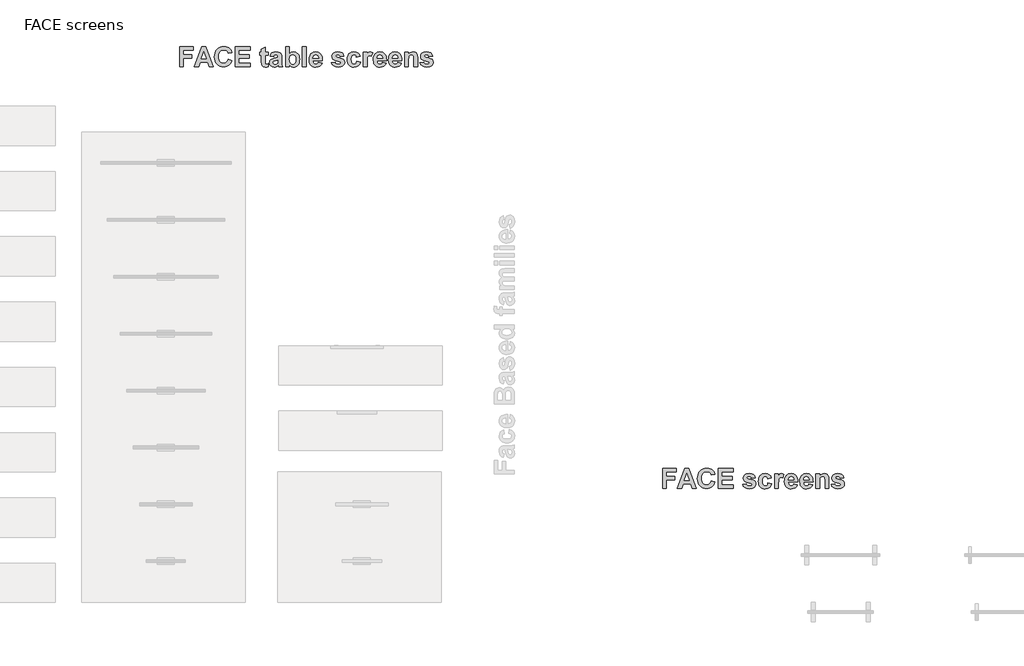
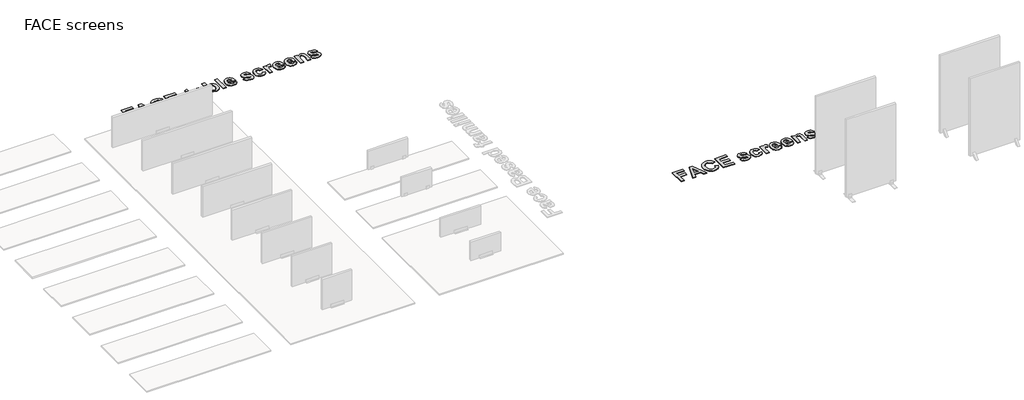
# One storey, part 5 of 5: 2 proxies.
"""IFC4 building model written with IfcOpenShell, lengths in millimetres."""

import ifcopenshell
import ifcopenshell.guid

model = None  # the IFC model being written
_history = None  # IfcOwnerHistory: only IFC2X3 demands one
_inside = {}  # id of a spatial element -> (the spatial element, [elements in it])
_under = {}  # id of a project, library or spatial element -> (it, [spatial elements below it])
_declared = {}  # id of a project -> (the project, [libraries it declares])
_typed = {}  # id of a type object -> (the type object, [elements of that type])
_made_of = {}  # id of a material, layer set ... -> (it, [elements and type objects made of it])


def new_model(schema):
    """Start an empty IFC model of exactly this schema.

    Asked for "IFC4X3", IfcOpenShell would pick the latest addendum, in which some entities
    have other attributes; the version numbers below select the first issue.
    IFC2X3 requires an IfcOwnerHistory on every rooted entity: one is made here for all.
    """
    global model, _history
    if schema == "IFC4X3":
        model = ifcopenshell.file(schema_version=(4, 3, 0, 0))
    else:
        model = ifcopenshell.file(schema=schema)
    _inside.clear()
    _under.clear()
    _declared.clear()
    _typed.clear()
    _made_of.clear()
    _history = None
    if model.schema == "IFC2X3":
        org = make("IfcOrganization", Name="unknown")
        user = make(
            "IfcPersonAndOrganization",
            ThePerson=make("IfcPerson", FamilyName="unknown"),
            TheOrganization=org,
        )
        app = make(
            "IfcApplication",
            ApplicationDeveloper=org,
            Version="unknown",
            ApplicationFullName="unknown",
            ApplicationIdentifier="unknown",
        )
        _history = make(
            "IfcOwnerHistory",
            OwningUser=user,
            OwningApplication=app,
            ChangeAction="ADDED",
            CreationDate=0,
        )
    return model


def make(cls, **values):
    """One entity of the class cls with the attributes given. An attribute that is None is left unset."""
    return model.create_entity(
        cls, **{name: value for name, value in values.items() if value is not None}
    )


def rooted(cls, **values):
    """An entity with a GlobalId (a new one), such as an element, a storey or a relation."""
    return make(cls, GlobalId=ifcopenshell.guid.new(), OwnerHistory=_history, **values)


def si_unit(unit_type, name, prefix=None):
    """IfcSIUnit, for example si_unit("LENGTHUNIT", "METRE", prefix="MILLI")."""
    return make("IfcSIUnit", UnitType=unit_type, Prefix=prefix, Name=name)


def assignment(units):
    """IfcUnitAssignment: the units of a project."""
    return None if units is None else make("IfcUnitAssignment", Units=units)


def point(xyz):
    """IfcCartesianPoint."""
    return None if xyz is None else make("IfcCartesianPoint", Coordinates=xyz)


def direction(xyz):
    """IfcDirection."""
    return None if xyz is None else make("IfcDirection", DirectionRatios=xyz)


def frame(location, z_axis=None, x_axis=None):
    """IfcAxis2Placement3D, a coordinate frame: its origin and axes. An axis left out is left unset."""
    return make(
        "IfcAxis2Placement3D",
        Location=point(location),
        Axis=direction(z_axis),
        RefDirection=direction(x_axis),
    )


def origin():
    """The frame at (0, 0, 0) with its axes left unset."""
    return frame((0.0, 0.0, 0.0))


def origin_with_axes():
    """The frame at (0, 0, 0) with the z axis (0, 0, 1) and the x axis (1, 0, 0) written out."""
    return frame((0.0, 0.0, 0.0), z_axis=(0.0, 0.0, 1.0), x_axis=(1.0, 0.0, 0.0))


def place(relative_to, where):
    """IfcLocalPlacement: puts the frame where relative to a parent placement (None: the world)."""
    return make(
        "IfcLocalPlacement", PlacementRelTo=relative_to, RelativePlacement=where
    )


def context(
    kind, dimensions, precision=None, world=None, true_north=None, identifier=None
):
    """IfcGeometricRepresentationContext, for example the 3D "Model" context."""
    return make(
        "IfcGeometricRepresentationContext",
        ContextIdentifier=identifier,
        ContextType=kind,
        CoordinateSpaceDimension=dimensions,
        Precision=precision,
        WorldCoordinateSystem=world,
        TrueNorth=true_north,
    )


def project(units=None, contexts=None):
    """IfcProject with its units and contexts."""
    return rooted(
        "IfcProject",
        Name="project",
        RepresentationContexts=contexts,
        UnitsInContext=assignment(units),
    )


def spatial(cls, under=None, at=None, **own):
    """A site, building, storey or space (cls), placed at a placement, below another one or the project."""
    s = rooted(cls, ObjectPlacement=at, **own)
    if under is not None:
        _under.setdefault(under.id(), (under, []))[1].append(s)
    return s


def polyline(points):
    """IfcPolyline through the points."""
    return make("IfcPolyline", Points=[point(p) for p in points])


def outline(outer, holes=None, kind="AREA"):
    """IfcArbitraryClosedProfileDef: a profile drawn as a closed curve; with holes, ...WithVoids."""
    if holes is None:
        return make("IfcArbitraryClosedProfileDef", ProfileType=kind, OuterCurve=outer)
    return make(
        "IfcArbitraryProfileDefWithVoids",
        ProfileType=kind,
        OuterCurve=outer,
        InnerCurves=holes,
    )


def extrude(swept, where, along, depth):
    """IfcExtrudedAreaSolid: the profile swept, set in the frame where, extruded along a direction by depth."""
    return make(
        "IfcExtrudedAreaSolid",
        SweptArea=swept,
        Position=where,
        ExtrudedDirection=direction(along),
        Depth=depth,
    )


def shape(context_of_items, identifier, shape_type, items):
    """IfcShapeRepresentation: the items that make up one representation, for example the "Body"."""
    return make(
        "IfcShapeRepresentation",
        ContextOfItems=context_of_items,
        RepresentationIdentifier=identifier,
        RepresentationType=shape_type,
        Items=items,
    )


def made_of(thing, what):
    """Note that an element or type object is made of a material, layer set ...; save() writes the relation."""
    if what is not None:
        _made_of.setdefault(what.id(), (what, []))[1].append(thing)
    return thing


def element(
    cls,
    number,
    at=None,
    inside=None,
    cuts=None,
    type_object=None,
    material=None,
    context=None,
    identifier="Body",
    shape_type=None,
    held_by="IfcProductDefinitionShape",
    body=None,
    shapes=None,
    **own,
):
    """One element of the class cls, such as IfcWall. Its Tag is "e" and its number.

    at: its placement. inside: the storey or other place that contains it. cuts: it is an
    opening in that element (IfcRelVoidsElement). A single representation is given by context,
    identifier, shape_type and body (its items); several are given by shapes. held_by: the class
    of the entity that holds the representations. save() writes the other relations.
    """
    e = rooted(cls, Tag="e%d" % number, ObjectPlacement=at, **own)
    if body is not None:
        shapes = [shape(context, identifier, shape_type, body)]
    if shapes is not None:
        e.Representation = make(held_by, Representations=shapes)
    if inside is not None:
        _inside.setdefault(inside.id(), (inside, []))[1].append(e)
    if cuts is not None:
        rooted(
            "IfcRelVoidsElement", RelatingBuildingElement=cuts, RelatedOpeningElement=e
        )
    if type_object is not None:
        _typed.setdefault(type_object.id(), (type_object, []))[1].append(e)
    return made_of(e, material)


def aggregate(whole, parts):
    """IfcRelAggregates: a whole, such as a stair, and the parts it consists of."""
    return rooted("IfcRelAggregates", RelatingObject=whole, RelatedObjects=parts)


def save(model, path):
    """Write the relations noted so far, then the file.

    IfcRelAggregates (storeys below a building ...), IfcRelContainedInSpatialStructure (elements
    in a storey), IfcRelDefinesByType, IfcRelAssociatesMaterial and IfcRelDeclares: one each for
    every whole, place, type object, material and project.
    """
    for whole, parts in _under.values():
        aggregate(whole, parts)
    for where, things in _inside.values():
        rooted(
            "IfcRelContainedInSpatialStructure",
            RelatedElements=things,
            RelatingStructure=where,
        )
    for kind, things in _typed.values():
        rooted("IfcRelDefinesByType", RelatedObjects=things, RelatingType=kind)
    for what, things in _made_of.values():
        rooted("IfcRelAssociatesMaterial", RelatedObjects=things, RelatingMaterial=what)
    for by, libraries in _declared.values():
        rooted("IfcRelDeclares", RelatingContext=by, RelatedDefinitions=libraries)
    model.write(path)


model = new_model("IFC4")

# Units and contexts
model_context = context("Model", 3, world=origin())
ifc_project = project(units=[si_unit("LENGTHUNIT", "METRE", prefix="MILLI")], contexts=[model_context])

# Site, building, storey
site = spatial("IfcSite", under=ifc_project)
building = spatial("IfcBuilding", under=site)
storey = spatial("IfcBuildingStorey", under=building, Name="FACE screens", Elevation=0.0)

# Proxies
placement = place(None, origin())
element("IfcBuildingElementProxy", 1, Name="300mm Arial", ObjectType="300mm Arial", at=placement, inside=storey, context=model_context, shape_type="SweptSolid", body=[
    extrude(outline(polyline([(15727.0666035, 22438.9044223), (15727.0666035, 22744.9822423), (15935.9768616, 22744.9822423), (15935.9768616, 22691.5400833), (15785.3671406, 22691.5400833), (15785.3671406, 22623.5227899), (15916.5433492, 22623.5227899), (15916.5433492, 22570.0806309), (15785.3671406, 22570.0806309), (15785.3671406, 22438.9044223), (15727.0666035, 22438.9044223)])), origin_with_axes(), (0.0, 0.0, 1.0), 10.0),
    extrude(outline(polyline([(16242.0546816, 22438.9044223), (16180.7935703, 22438.9044223), (16156.8053284, 22506.9217156), (16041.1911122, 22506.9217156), (16017.506519, 22438.9044223), (15955.410374, 22438.9044223), (16067.1530701, 22744.9822423), (16129.2492152, 22744.9822423), (16242.0546816, 22438.9044223)]), holes=[polyline([(16138.1309376, 22560.3638747), (16098.7325278, 22672.1065709), (16059.865503, 22560.3638747), (16138.1309376, 22560.3638747)])]), origin_with_axes(), (0.0, 0.0, 1.0), 10.0),
    extrude(outline(polyline([(16470.398452, 22555.5054966), (16528.6989892, 22536.0719842), (16520.6475559, 22513.0207831), (16510.309269, 22493.13417), (16497.6841282, 22476.412145), (16482.7721337, 22462.8547081), (16465.6349641, 22452.3764581), (16446.334298, 22444.8919938), (16424.8701354, 22440.4013152), (16401.2424763, 22438.9044223), (16372.0495072, 22441.4617131), (16345.5798867, 22449.1335856), (16321.8336148, 22461.9200396), (16300.8106917, 22479.8210753), (16283.6070989, 22502.1582277), (16271.3188184, 22528.253032), (16263.9458501, 22558.105488), (16261.4881939, 22591.7155958), (16263.9672003, 22627.1570845), (16271.4042196, 22658.4044264), (16283.7992516, 22685.4576216), (16301.1522964, 22708.3166701), (16322.5476636, 22726.4833984), (16347.0696628, 22739.4596328), (16374.718294, 22747.2453735), (16405.4935572, 22749.8406204), (16432.4044171, 22747.7008464), (16456.6583515, 22741.2815246), (16478.2553604, 22730.5826549), (16497.1954437, 22715.6042373), (16515.5851639, 22690.9897201), (16528.6989892, 22657.5314366), (16470.398452, 22647.8146804), (16461.4692845, 22667.9788473), (16446.2204298, 22683.3795263), (16425.8285264, 22693.1437276), (16401.4702128, 22696.3984613), (16384.1456351, 22694.9205465), (16368.5338254, 22690.4868021), (16354.6347837, 22683.097228), (16342.4485102, 22672.7518242), (16332.5348568, 22659.0994971), (16325.4536759, 22641.7891529), (16321.2049673, 22620.8207916), (16319.7887311, 22596.1944131), (16321.1622667, 22570.128076), (16325.2828735, 22548.1040612), (16332.1505515, 22530.1223688), (16341.7653008, 22516.1829989), (16353.5815026, 22505.7545662), (16367.0535383, 22498.3056857), (16382.181408, 22493.8363575), (16398.9651116, 22492.3465814), (16423.0577327, 22496.1516783), (16443.5635043, 22507.566969), (16459.6284147, 22527.1617947), (16470.398452, 22555.5054966)])), origin_with_axes(), (0.0, 0.0, 1.0), 10.0),
    extrude(outline(polyline([(16577.2827701, 22438.9044223), (16577.2827701, 22744.9822423), (16805.6265406, 22744.9822423), (16805.6265406, 22691.5400833), (16635.5833073, 22691.5400833), (16635.5833073, 22623.5227899), (16795.9097844, 22623.5227899), (16795.9097844, 22570.0806309), (16635.5833073, 22570.0806309), (16635.5833073, 22492.3465814), (16810.4849187, 22492.3465814), (16810.4849187, 22438.9044223), (16577.2827701, 22438.9044223)])), origin_with_axes(), (0.0, 0.0, 1.0), 10.0),
    extrude(outline(polyline([(16951.3778834, 22502.0633375), (17009.6784206, 22511.7800937), (17015.2294971, 22497.0910912), (17024.5951596, 22486.4254331), (17038.0980346, 22479.9349436), (17056.060749, 22477.7714471), (17075.5511955, 22479.8400534), (17089.5380105, 22486.0458723), (17095.2314224, 22492.8020543), (17097.1292263, 22501.5319524), (17093.1058819, 22512.4633032), (17074.0519303, 22520.1304311), (17017.7440873, 22535.0471701), (16986.6770368, 22548.6734024), (16975.484738, 22558.5846835), (16967.4902389, 22570.2514332), (16962.6935395, 22583.6736516), (16961.0946396, 22598.8513387), (16966.579293, 22625.477528), (16983.0332532, 22647.5110318), (16995.5160587, 22656.1460397), (17011.0258614, 22662.3139025), (17051.1264587, 22667.2481928), (17089.3672082, 22663.2628045), (17116.3350022, 22651.3066397), (17134.3451616, 22631.5315226), (17145.7130072, 22604.0892775), (17087.4124701, 22594.3725214), (17083.1234332, 22606.8410933), (17076.1774708, 22616.0074863), (17066.1570659, 22621.643964), (17052.6447019, 22623.5227899), (17036.0389174, 22621.9286346), (17024.9367643, 22617.1461687), (17019.3951768, 22605.3038721), (17024.9367643, 22594.7520821), (17041.5520378, 22587.7871417), (17076.5190755, 22578.4309682), (17113.9912143, 22566.6456057), (17138.1217915, 22552.3930981), (17151.1027704, 22533.585861), (17155.4297634, 22508.5917831), (17153.8617029, 22493.8339852), (17149.1575214, 22480.153191), (17130.3407953, 22456.0226139), (17116.2899294, 22446.4078647), (17099.2262997, 22439.5401866), (17056.060749, 22434.0460442), (17016.0835089, 22438.6197517), (16985.4244862, 22452.3408742), (16963.9128785, 22473.9189051), (16951.3778834, 22502.0633375)])), origin_with_axes(), (0.0, 0.0, 1.0), 10.0),
    extrude(outline(polyline([(17393.4902901, 22599.2308994), (17335.189753, 22589.5141433), (17330.7204247, 22604.3454811), (17322.7781152, 22614.9826722), (17311.647495, 22621.3877605), (17297.6132349, 22623.5227899), (17279.1286245, 22619.5184236), (17264.8191827, 22607.5053246), (17255.6527897, 22586.1170742), (17252.5973253, 22553.9872534), (17255.7761469, 22518.3654734), (17265.3126118, 22495.0035069), (17280.2008837, 22482.079462), (17299.4351267, 22477.7714471), (17314.0007719, 22480.2291032), (17325.6627772, 22487.6020715), (17334.3642082, 22500.9910783), (17340.048131, 22521.4968499), (17398.3486682, 22511.7800937), (17385.5859367, 22478.0086726), (17364.7575384, 22453.669337), (17335.673693, 22438.9518674), (17298.14462, 22434.0460442), (17275.6248039, 22435.9770597), (17255.5104544, 22441.7701063), (17237.8015713, 22451.4251838), (17222.4981548, 22464.9422924), (17210.1600569, 22481.8707036), (17201.3471298, 22501.7596889), (17196.0593736, 22524.6092484), (17194.2967882, 22550.419382), (17196.0475123, 22576.521303), (17201.2996847, 22599.5630151), (17210.0533054, 22619.5445184), (17222.3083744, 22636.4658128), (17237.5524846, 22649.933104), (17255.2732289, 22659.5525978), (17275.4706074, 22665.324294), (17298.14462, 22667.2481928), (17333.2350149, 22663.044557), (17360.3166772, 22650.4336498), (17380.1487284, 22629.2256908), (17393.4902901, 22599.2308994)])), origin_with_axes(), (0.0, 0.0, 1.0), 10.0),
    extrude(outline(polyline([(17500.3746082, 22438.9044223), (17442.074071, 22438.9044223), (17442.074071, 22662.3898147), (17500.3746082, 22662.3898147), (17500.3746082, 22631.26583), (17512.6913558, 22649.570149), (17523.6796406, 22660.3022303), (17534.7248596, 22665.5117022), (17547.2124095, 22667.2481928), (17565.4123493, 22664.1737504), (17582.9670358, 22654.9504232), (17565.9627125, 22599.4586359), (17551.9189633, 22606.5754007), (17538.9379843, 22608.9476556), (17527.731452, 22607.2870772), (17518.4037456, 22602.3053418), (17510.9074201, 22592.9966135), (17505.1950302, 22578.3550561), (17501.5797137, 22551.5580644), (17500.3746082, 22505.7830333), (17500.3746082, 22438.9044223)])), origin_with_axes(), (0.0, 0.0, 1.0), 10.0),
    extrude(outline(polyline([(17733.5767567, 22506.9217156), (17791.8772939, 22497.2049595), (17777.6817204, 22469.9999399), (17757.1095256, 22450.1773777), (17730.3694681, 22438.0788776), (17697.6703061, 22434.0460442), (17671.2671088, 22436.4230437), (17648.536162, 22443.554042), (17629.4774659, 22455.4390392), (17614.0910205, 22472.0780352), (17604.725358, 22488.2995144), (17598.0355991, 22506.5231768), (17592.683792, 22548.977051), (17594.4582387, 22575.1857235), (17599.7815787, 22598.3958657), (17608.6538122, 22618.6074777), (17621.074939, 22635.8205595), (17636.2099254, 22649.570149), (17653.2237378, 22659.3912845), (17672.116376, 22665.2839657), (17692.8878402, 22667.2481928), (17715.9698807, 22665.2317761), (17736.4803968, 22659.182526), (17754.4193886, 22649.1004426), (17769.786856, 22634.9855257), (17782.0324359, 22616.7049293), (17790.6057652, 22594.1258068), (17795.5068439, 22567.2481585), (17796.735672, 22536.0719842), (17650.9843291, 22536.0719842), (17654.7230029, 22511.5144012), (17664.7244297, 22493.1057029), (17679.4703663, 22481.605011), (17697.4425697, 22477.7714471), (17709.6834051, 22479.4984487), (17719.8366562, 22484.6794534), (17727.8264108, 22493.6940222), (17733.5767567, 22506.9217156)]), holes=[polyline([(17738.4351348, 22570.0806309), (17734.8862415, 22593.1294598), (17725.4541559, 22609.8965576), (17711.7520114, 22620.1162318), (17695.3929414, 22623.5227899), (17678.1229255, 22619.9359405), (17664.1171324, 22609.1753921), (17654.9317613, 22592.1900468), (17651.9711872, 22570.0806309), (17738.4351348, 22570.0806309)])]), origin_with_axes(), (0.0, 0.0, 1.0), 10.0),
    extrude(outline(polyline([(17966.7789053, 22506.9217156), (18025.0794424, 22497.2049595), (18010.8838689, 22469.9999399), (17990.3116742, 22450.1773777), (17963.5716166, 22438.0788776), (17930.8724547, 22434.0460442), (17904.4692573, 22436.4230437), (17881.7383106, 22443.554042), (17862.6796145, 22455.4390392), (17847.293169, 22472.0780352), (17837.9275066, 22488.2995144), (17831.2377477, 22506.5231768), (17825.8859405, 22548.977051), (17827.6603872, 22575.1857235), (17832.9837273, 22598.3958657), (17841.8559607, 22618.6074777), (17854.2770875, 22635.8205595), (17869.412074, 22649.570149), (17886.4258863, 22659.3912845), (17905.3185246, 22665.2839657), (17926.0899888, 22667.2481928), (17949.1720292, 22665.2317761), (17969.6825453, 22659.182526), (17987.6215371, 22649.1004426), (18002.9890045, 22634.9855257), (18015.2345845, 22616.7049293), (18023.8079138, 22594.1258068), (18028.7089925, 22567.2481585), (18029.9378205, 22536.0719842), (17884.1864777, 22536.0719842), (17887.9251515, 22511.5144012), (17897.9265782, 22493.1057029), (17912.6725149, 22481.605011), (17930.6447182, 22477.7714471), (17942.8855537, 22479.4984487), (17953.0388048, 22484.6794534), (17961.0285594, 22493.6940222), (17966.7789053, 22506.9217156)]), holes=[polyline([(17971.6372834, 22570.0806309), (17968.08839, 22593.1294598), (17958.6563044, 22609.8965576), (17944.95416, 22620.1162318), (17928.59509, 22623.5227899), (17911.3250741, 22619.9359405), (17897.319281, 22609.1753921), (17888.1339099, 22592.1900468), (17885.1733357, 22570.0806309), (17971.6372834, 22570.0806309)])]), origin_with_axes(), (0.0, 0.0, 1.0), 10.0),
    extrude(outline(polyline([(18272.8567253, 22438.9044223), (18214.5561882, 22438.9044223), (18214.5561882, 22553.759517), (18210.9124046, 22600.9768791), (18206.1109606, 22610.4848768), (18198.9941958, 22617.6016416), (18189.9037149, 22622.0425028), (18179.1811226, 22623.5227899), (18165.0709503, 22621.4067385), (18152.4979992, 22615.0585843), (18142.5535065, 22605.2089819), (18136.3287096, 22592.5885856), (18131.9637605, 22540.8544501), (18131.9637605, 22438.9044223), (18073.6632234, 22438.9044223), (18073.6632234, 22662.3898147), (18131.9637605, 22662.3898147), (18131.9637605, 22630.2030598), (18146.7144417, 22646.4103055), (18163.2585476, 22657.9869095), (18181.5960782, 22664.932872), (18201.7270335, 22667.2481928), (18219.4525223, 22665.4832351), (18235.5838558, 22660.1883621), (18249.0582638, 22652.1606514), (18258.8129761, 22642.1971807), (18269.7822829, 22617.4118612), (18272.8567253, 22577.6718466), (18272.8567253, 22438.9044223)])), origin_with_axes(), (0.0, 0.0, 1.0), 10.0),
    extrude(outline(polyline([(18306.865372, 22502.0633375), (18365.1659091, 22511.7800937), (18370.7169856, 22497.0910912), (18380.0826481, 22486.4254331), (18393.5855231, 22479.9349436), (18411.5482375, 22477.7714471), (18431.038684, 22479.8400534), (18445.025499, 22486.0458723), (18450.7189109, 22492.8020543), (18452.6167148, 22501.5319524), (18448.5933704, 22512.4633032), (18429.5394189, 22520.1304311), (18373.2315759, 22535.0471701), (18342.1645253, 22548.6734024), (18330.9722265, 22558.5846835), (18322.9777274, 22570.2514332), (18318.181028, 22583.6736516), (18316.5821281, 22598.8513387), (18322.0667815, 22625.477528), (18338.5207417, 22647.5110318), (18351.0035472, 22656.1460397), (18366.5133499, 22662.3139025), (18406.6139472, 22667.2481928), (18444.8546967, 22663.2628045), (18471.8224907, 22651.3066397), (18489.8326501, 22631.5315226), (18501.2004958, 22604.0892775), (18442.8999586, 22594.3725214), (18438.6109217, 22606.8410933), (18431.6649593, 22616.0074863), (18421.6445545, 22621.643964), (18408.1321904, 22623.5227899), (18391.5264059, 22621.9286346), (18380.4242528, 22617.1461687), (18374.8826653, 22605.3038721), (18380.4242528, 22594.7520821), (18397.0395263, 22587.7871417), (18432.006564, 22578.4309682), (18469.4787028, 22566.6456057), (18493.60928, 22552.3930981), (18506.590259, 22533.585861), (18510.9172519, 22508.5917831), (18509.3491914, 22493.8339852), (18504.6450099, 22480.153191), (18485.8282838, 22456.0226139), (18471.7774179, 22446.4078647), (18454.7137882, 22439.5401866), (18411.5482375, 22434.0460442), (18371.5709974, 22438.6197517), (18340.9119747, 22452.3408742), (18319.400367, 22473.9189051), (18306.865372, 22502.0633375)])), origin_with_axes(), (0.0, 0.0, 1.0), 10.0),
])
element("IfcBuildingElementProxy", 2, Name="300mm Arial", ObjectType="300mm Arial", at=placement, inside=storey, context=model_context, shape_type="SweptSolid", body=[
    extrude(outline(polyline([(8335.7937582, 28896.2165005), (8335.7937582, 29202.2943205), (8544.7040163, 29202.2943205), (8544.7040163, 29148.8521614), (8394.0942954, 29148.8521614), (8394.0942954, 29080.8348681), (8525.2705039, 29080.8348681), (8525.2705039, 29027.3927091), (8394.0942954, 29027.3927091), (8394.0942954, 28896.2165005), (8335.7937582, 28896.2165005)])), origin_with_axes(), (0.0, 0.0, 1.0), 10.0),
    extrude(outline(polyline([(8850.7818363, 28896.2165005), (8789.520725, 28896.2165005), (8765.5324832, 28964.2337938), (8649.9182669, 28964.2337938), (8626.2336737, 28896.2165005), (8564.1375287, 28896.2165005), (8675.8802249, 29202.2943205), (8737.9763699, 29202.2943205), (8850.7818363, 28896.2165005)]), holes=[polyline([(8746.8580924, 29017.6759529), (8707.4596825, 29129.4186491), (8668.5926577, 29017.6759529), (8746.8580924, 29017.6759529)])]), origin_with_axes(), (0.0, 0.0, 1.0), 10.0),
    extrude(outline(polyline([(9079.1256068, 29012.8175748), (9137.4261439, 28993.3840624), (9129.3747107, 28970.3328612), (9119.0364237, 28950.4462482), (9106.411283, 28933.7242232), (9091.4992885, 28920.1667863), (9074.3621189, 28909.6885362), (9055.0614528, 28902.2040719), (9033.5972902, 28897.7133934), (9009.9696311, 28896.2165005), (8980.7766619, 28898.7737913), (8954.3070414, 28906.4456637), (8930.5607696, 28919.2321178), (8909.5378464, 28937.1331535), (8892.3342536, 28959.4703059), (8880.0459731, 28985.5651101), (8872.6730048, 29015.4175662), (8870.2153487, 29049.027674), (8872.6943551, 29084.4691627), (8880.1313743, 29115.7165046), (8892.5264063, 29142.7696998), (8909.8794511, 29165.6287483), (8931.2748183, 29183.7954765), (8955.7968175, 29196.771711), (8983.4454487, 29204.5574517), (9014.2207119, 29207.1526986), (9041.1315718, 29205.0129246), (9065.3855062, 29198.5936028), (9086.9825151, 29187.8947331), (9105.9225984, 29172.9163154), (9124.3123187, 29148.3017983), (9137.4261439, 29114.8435148), (9079.1256068, 29105.1267586), (9070.1964392, 29125.2909255), (9054.9475845, 29140.6916045), (9034.5556811, 29150.4558058), (9010.1973675, 29153.7105395), (8992.8727898, 29152.2326247), (8977.2609801, 29147.7988802), (8963.3619385, 29140.4093061), (8951.1756649, 29130.0639024), (8941.2620115, 29116.4115753), (8934.1808306, 29099.1012311), (8929.932122, 29078.1328697), (8928.5158858, 29053.5064913), (8929.8894214, 29027.4401542), (8934.0100282, 29005.4161394), (8940.8777062, 28987.434447), (8950.4924555, 28973.4950771), (8962.3086573, 28963.0666444), (8975.780693, 28955.6177639), (8990.9085627, 28951.1484356), (9007.6922663, 28949.6586595), (9031.7848874, 28953.4637564), (9052.290659, 28964.8790472), (9068.3555694, 28984.4738729), (9079.1256068, 29012.8175748)])), origin_with_axes(), (0.0, 0.0, 1.0), 10.0),
    extrude(outline(polyline([(9186.0099249, 28896.2165005), (9186.0099249, 29202.2943205), (9414.3536953, 29202.2943205), (9414.3536953, 29148.8521614), (9244.310462, 29148.8521614), (9244.310462, 29080.8348681), (9404.6369391, 29080.8348681), (9404.6369391, 29027.3927091), (9244.310462, 29027.3927091), (9244.310462, 28949.6586595), (9419.2120734, 28949.6586595), (9419.2120734, 28896.2165005), (9186.0099249, 28896.2165005)])), origin_with_axes(), (0.0, 0.0, 1.0), 10.0),
    extrude(outline(polyline([(9691.2812467, 29119.7018929), (9691.2812467, 29075.97649), (9647.5558439, 29075.97649), (9647.5558439, 28980.0994348), (9648.8843066, 28946.2046564), (9654.9193232, 28938.2338798), (9666.382059, 28935.0835253), (9693.7104358, 28940.7010249), (9696.1396248, 28899.2529868), (9673.6506481, 28893.3318385), (9648.3908776, 28891.3581224), (9618.9369604, 28896.8237978), (9607.5596258, 28903.0865508), (9599.6932284, 28910.9434591), (9591.1531107, 28934.4003158), (9589.2553067, 28976.835212), (9589.2553067, 29075.97649), (9560.1050382, 29075.97649), (9560.1050382, 29119.7018929), (9589.2553067, 29119.7018929), (9589.2553067, 29163.4272957), (9647.5558439, 29197.4359424), (9647.5558439, 29119.7018929), (9691.2812467, 29119.7018929)])), origin_with_axes(), (0.0, 0.0, 1.0), 10.0),
    extrude(outline(polyline([(9773.8736743, 29051.6845995), (9720.4315153, 29061.4013557), (9732.0176084, 29089.4129419), (9749.7715643, 29109.0741908), (9775.648121, 29120.6887509), (9811.6020167, 29124.560271), (9844.1113983, 29122.2164831), (9867.093804, 29115.1851195), (9882.6178403, 29104.5574174), (9892.7521134, 29091.4246141), (9898.331657, 29071.0137327), (9900.1915048, 29038.5517962), (9900.1915048, 28969.623557), (9903.2659472, 28926.2018028), (9914.7666391, 28896.2165005), (9856.466102, 28896.2165005), (9851.0004266, 28914.739067), (9848.9507983, 28922.1025463), (9833.863257, 28908.6755834), (9817.7509015, 28899.0632064), (9800.5757758, 28893.2843934), (9782.2999239, 28891.3581224), (9752.5708251, 28896.0362091), (9729.8825789, 28910.0704693), (9715.5067141, 28931.2404723), (9710.7147591, 28957.3257875), (9712.8497886, 28975.2031006), (9719.2548769, 28991.0307855), (9729.5125072, 29004.1066547), (9743.2051626, 29013.7285207), (9787.6137749, 29027.4686212), (9841.8909677, 29041.9678433), (9841.8909677, 29048.1167281), (9840.0785649, 29063.2612036), (9834.6413566, 29073.3195645), (9824.1939459, 29078.9560422), (9807.3509359, 29080.8348681), (9795.2619248, 29079.2217348), (9786.1714439, 29074.3823347), (9779.3013936, 29065.4816342), (9773.8736743, 29051.6845995)]), holes=[polyline([(9841.8909677, 28998.2424405), (9809.0210034, 28990.1577957), (9779.5670862, 28980.9344685), (9771.6532437, 28972.6410653), (9769.0152963, 28962.3359899), (9771.1313477, 28952.0024474), (9777.4795018, 28943.1681701), (9787.0918788, 28937.1046865), (9799.0005986, 28935.0835253), (9813.2910623, 28937.4368021), (9826.8603604, 28944.4966328), (9835.0209174, 28952.4294533), (9839.7654273, 28961.9564291), (9841.8909677, 28987.6906506), (9841.8909677, 28998.2424405)])]), origin_with_axes(), (0.0, 0.0, 1.0), 10.0),
    extrude(outline(polyline([(9958.492042, 28896.2165005), (9958.492042, 29202.2943205), (10016.7925791, 29202.2943205), (10016.7925791, 29093.9676714), (10030.7699051, 29107.3519337), (10045.9808038, 29116.9121211), (10062.4252749, 29122.6482335), (10080.1033187, 29124.560271), (10099.2047153, 29122.7146566), (10116.5791104, 29117.1778136), (10132.226504, 29107.9497419), (10146.1468959, 29095.0304416), (10157.5716756, 29078.6571381), (10165.7322326, 29059.0670569), (10170.6285668, 29036.260198), (10172.2606781, 29010.2365614), (10170.6380558, 28983.330446), (10165.7701887, 28959.6980424), (10157.6570768, 28939.3393506), (10146.2987202, 28922.2543706), (10132.6250428, 28908.737262), (10117.5659685, 28899.0821844), (10101.1214973, 28893.2891379), (10083.2916293, 28891.3581224), (10065.1960687, 28893.6924212), (10047.3472226, 28900.6953178), (10030.8458173, 28912.2908999), (10016.7925791, 28928.4032554), (10016.7925791, 28896.2165005), (9958.492042, 28896.2165005)]), holes=[polyline([(10016.7925791, 29012.2102775), (10019.4874607, 28981.1242489), (10027.5721055, 28959.3754157), (10045.1078139, 28941.1564979), (10055.7544941, 28936.6017684), (10067.6537248, 28935.0835253), (10085.4456368, 28939.3915402), (10100.4098208, 28952.3155851), (10110.572561, 28974.4819351), (10113.960141, 29006.5168657), (10110.5535829, 29040.4780672), (10100.3339087, 29063.4130279), (10084.7814054, 29076.4794081), (10065.3763601, 29080.8348681), (10046.2559853, 29076.5837873), (10030.6465479, 29063.8305448), (10020.2560713, 29042.4233163), (10016.7925791, 29012.2102775)])]), origin_with_axes(), (0.0, 0.0, 1.0), 10.0),
    extrude(outline(polyline([(10215.986081, 28896.2165005), (10215.986081, 29202.2943205), (10274.2866181, 29202.2943205), (10274.2866181, 28896.2165005), (10215.986081, 28896.2165005)])), origin_with_axes(), (0.0, 0.0, 1.0), 10.0),
    extrude(outline(polyline([(10458.9049857, 28964.2337938), (10517.2055229, 28954.5170376), (10503.0099494, 28927.3120181), (10482.4377546, 28907.4894559), (10455.6976971, 28895.3909558), (10422.9985351, 28891.3581224), (10396.5953378, 28893.7351218), (10373.864391, 28900.8661202), (10354.8056949, 28912.7511173), (10339.4192495, 28929.3901134), (10330.053587, 28945.6115926), (10323.3638281, 28963.835255), (10318.012021, 29006.2891292), (10319.7864677, 29032.4978017), (10325.1098077, 29055.7079439), (10333.9820412, 29075.9195559), (10346.403168, 29093.1326377), (10361.5381544, 29106.8822272), (10378.5519668, 29116.7033626), (10397.444605, 29122.5960439), (10418.2160692, 29124.560271), (10441.2981097, 29122.5438543), (10461.8086258, 29116.4946042), (10479.7476176, 29106.4125208), (10495.115085, 29092.2976039), (10507.3606649, 29074.0170074), (10515.9339942, 29051.437885), (10520.8350729, 29024.5602367), (10522.063901, 28993.3840624), (10376.3125581, 28993.3840624), (10380.0512319, 28968.8264794), (10390.0526587, 28950.4177811), (10404.7985953, 28938.9170892), (10422.7707987, 28935.0835253), (10435.0116341, 28936.8105268), (10445.1648852, 28941.9915316), (10453.1546398, 28951.0061003), (10458.9049857, 28964.2337938)]), holes=[polyline([(10463.7633638, 29027.3927091), (10460.2144705, 29050.441538), (10450.7823849, 29067.2086358), (10437.0802404, 29077.42831), (10420.7211704, 29080.8348681), (10403.4511545, 29077.2480187), (10389.4453614, 29066.4874703), (10380.2599903, 29049.502125), (10377.2994162, 29027.3927091), (10463.7633638, 29027.3927091)])]), origin_with_axes(), (0.0, 0.0, 1.0), 10.0),
    extrude(outline(polyline([(10658.0984876, 28959.3754157), (10716.3990248, 28969.0921719), (10721.9501013, 28954.4031694), (10731.3157638, 28943.7375112), (10744.8186388, 28937.2470217), (10762.7813532, 28935.0835253), (10782.2717997, 28937.1521316), (10796.2586147, 28943.3579504), (10801.9520266, 28950.1141325), (10803.8498305, 28958.8440306), (10799.8264861, 28969.7753813), (10780.7725345, 28977.4425093), (10724.4646915, 28992.3592483), (10693.397641, 29005.9854806), (10682.2053422, 29015.8967617), (10674.2108431, 29027.5635114), (10669.4141437, 29040.9857298), (10667.8152438, 29056.1634168), (10673.2998972, 29082.7896062), (10689.7538574, 29104.8231099), (10702.2366629, 29113.4581179), (10717.7464656, 29119.6259807), (10757.8470629, 29124.560271), (10796.0878124, 29120.5748827), (10823.0556064, 29108.6187178), (10841.0657658, 29088.8436007), (10852.4336114, 29061.4013557), (10794.1330743, 29051.6845995), (10789.8440374, 29064.1531714), (10782.898075, 29073.3195645), (10772.8776701, 29078.9560422), (10759.3653061, 29080.8348681), (10742.7595216, 29079.2407128), (10731.6573685, 29074.4582469), (10726.115781, 29062.6159502), (10731.6573685, 29052.0641603), (10748.272642, 29045.0992198), (10783.2396797, 29035.7430464), (10820.7118185, 29023.9576839), (10844.8423957, 29009.7051763), (10857.8233746, 28990.8979392), (10862.1503676, 28965.9038613), (10860.5823071, 28951.1460634), (10855.8781256, 28937.4652692), (10837.0613995, 28913.3346921), (10823.0105336, 28903.7199428), (10805.9469039, 28896.8522648), (10762.7813532, 28891.3581224), (10722.8041131, 28895.9318299), (10692.1450904, 28909.6529524), (10670.6334827, 28931.2309832), (10658.0984876, 28959.3754157)])), origin_with_axes(), (0.0, 0.0, 1.0), 10.0),
    extrude(outline(polyline([(11100.2108943, 29056.5429776), (11041.9103572, 29046.8262214), (11037.4410289, 29061.6575593), (11029.4987194, 29072.2947504), (11018.3680992, 29078.6998387), (11004.3338391, 29080.8348681), (10985.8492287, 29076.8305018), (10971.5397869, 29064.8174028), (10962.3733939, 29043.4291524), (10959.3179295, 29011.2993316), (10962.4967511, 28975.6775516), (10972.033216, 28952.3155851), (10986.9214879, 28939.3915402), (11006.1557309, 28935.0835253), (11020.7213761, 28937.5411814), (11032.3833814, 28944.9141497), (11041.0848124, 28958.3031565), (11046.7687352, 28978.8089281), (11105.0692724, 28969.0921719), (11092.3065409, 28935.3207507), (11071.4781426, 28910.9814152), (11042.3942972, 28896.2639456), (11004.8652242, 28891.3581224), (10982.3454081, 28893.2891379), (10962.2310586, 28899.0821844), (10944.5221755, 28908.737262), (10929.218759, 28922.2543706), (10916.8806611, 28939.1827818), (10908.067734, 28959.0717671), (10902.7799778, 28981.9213266), (10901.0173924, 29007.7314602), (10902.7681165, 29033.8333812), (10908.0202889, 29056.8750933), (10916.7739096, 29076.8565966), (10929.0289786, 29093.777891), (10944.2730888, 29107.2451822), (10961.9938331, 29116.864676), (10982.1912116, 29122.6363722), (11004.8652242, 29124.560271), (11039.9556191, 29120.3566352), (11067.0372814, 29107.745728), (11086.8693326, 29086.537769), (11100.2108943, 29056.5429776)])), origin_with_axes(), (0.0, 0.0, 1.0), 10.0),
    extrude(outline(polyline([(11207.0952124, 28896.2165005), (11148.7946752, 28896.2165005), (11148.7946752, 29119.7018929), (11207.0952124, 29119.7018929), (11207.0952124, 29088.5779082), (11219.41196, 29106.8822272), (11230.4002448, 29117.6143085), (11241.4454638, 29122.8237804), (11253.9330137, 29124.560271), (11272.1329535, 29121.4858286), (11289.68764, 29112.2625014), (11272.6833167, 29056.7707141), (11258.6395675, 29063.8874789), (11245.6585885, 29066.2597338), (11234.4520562, 29064.5991554), (11225.1243498, 29059.61742), (11217.6280243, 29050.3086917), (11211.9156344, 29035.6671343), (11208.3003179, 29008.8701426), (11207.0952124, 28963.0951115), (11207.0952124, 28896.2165005)])), origin_with_axes(), (0.0, 0.0, 1.0), 10.0),
    extrude(outline(polyline([(11440.2973609, 28964.2337938), (11498.5978981, 28954.5170376), (11484.4023246, 28927.3120181), (11463.8301298, 28907.4894559), (11437.0900723, 28895.3909558), (11404.3909103, 28891.3581224), (11377.987713, 28893.7351218), (11355.2567662, 28900.8661202), (11336.1980701, 28912.7511173), (11320.8116247, 28929.3901134), (11311.4459622, 28945.6115926), (11304.7562033, 28963.835255), (11299.4043962, 29006.2891292), (11301.1788429, 29032.4978017), (11306.5021829, 29055.7079439), (11315.3744164, 29075.9195559), (11327.7955432, 29093.1326377), (11342.9305296, 29106.8822272), (11359.944342, 29116.7033626), (11378.8369802, 29122.5960439), (11399.6084444, 29124.560271), (11422.6904849, 29122.5438543), (11443.201001, 29116.4946042), (11461.1399928, 29106.4125208), (11476.5074602, 29092.2976039), (11488.7530401, 29074.0170074), (11497.3263694, 29051.437885), (11502.2274481, 29024.5602367), (11503.4562762, 28993.3840624), (11357.7049333, 28993.3840624), (11361.4436071, 28968.8264794), (11371.4450339, 28950.4177811), (11386.1909705, 28938.9170892), (11404.1631739, 28935.0835253), (11416.4040093, 28936.8105268), (11426.5572604, 28941.9915316), (11434.547015, 28951.0061003), (11440.2973609, 28964.2337938)]), holes=[polyline([(11445.155739, 29027.3927091), (11441.6068457, 29050.441538), (11432.1747601, 29067.2086358), (11418.4726156, 29077.42831), (11402.1135456, 29080.8348681), (11384.8435297, 29077.2480187), (11370.8377366, 29066.4874703), (11361.6523655, 29049.502125), (11358.6917914, 29027.3927091), (11445.155739, 29027.3927091)])]), origin_with_axes(), (0.0, 0.0, 1.0), 10.0),
    extrude(outline(polyline([(11673.4995095, 28964.2337938), (11731.8000466, 28954.5170376), (11717.6044732, 28927.3120181), (11697.0322784, 28907.4894559), (11670.2922208, 28895.3909558), (11637.5930589, 28891.3581224), (11611.1898615, 28893.7351218), (11588.4589148, 28900.8661202), (11569.4002187, 28912.7511173), (11554.0137732, 28929.3901134), (11544.6481108, 28945.6115926), (11537.9583519, 28963.835255), (11532.6065448, 29006.2891292), (11534.3809914, 29032.4978017), (11539.7043315, 29055.7079439), (11548.5765649, 29075.9195559), (11560.9976917, 29093.1326377), (11576.1326782, 29106.8822272), (11593.1464905, 29116.7033626), (11612.0391288, 29122.5960439), (11632.810593, 29124.560271), (11655.8926334, 29122.5438543), (11676.4031495, 29116.4946042), (11694.3421413, 29106.4125208), (11709.7096087, 29092.2976039), (11721.9551887, 29074.0170074), (11730.528518, 29051.437885), (11735.4295967, 29024.5602367), (11736.6584247, 28993.3840624), (11590.9070819, 28993.3840624), (11594.6457557, 28968.8264794), (11604.6471824, 28950.4177811), (11619.3931191, 28938.9170892), (11637.3653224, 28935.0835253), (11649.6061579, 28936.8105268), (11659.759409, 28941.9915316), (11667.7491636, 28951.0061003), (11673.4995095, 28964.2337938)]), holes=[polyline([(11678.3578876, 29027.3927091), (11674.8089942, 29050.441538), (11665.3769086, 29067.2086358), (11651.6747642, 29077.42831), (11635.3156942, 29080.8348681), (11618.0456783, 29077.2480187), (11604.0398852, 29066.4874703), (11594.8545141, 29049.502125), (11591.8939399, 29027.3927091), (11678.3578876, 29027.3927091)])]), origin_with_axes(), (0.0, 0.0, 1.0), 10.0),
    extrude(outline(polyline([(11979.5773295, 28896.2165005), (11921.2767924, 28896.2165005), (11921.2767924, 29011.0715951), (11917.6330088, 29058.2889573), (11912.8315648, 29067.796955), (11905.7148, 29074.9137198), (11896.6243191, 29079.354581), (11885.9017268, 29080.8348681), (11871.7915545, 29078.7188167), (11859.2186034, 29072.3706625), (11849.2741107, 29062.52106), (11843.0493138, 29049.9006638), (11838.6843647, 28998.1665283), (11838.6843647, 28896.2165005), (11780.3838276, 28896.2165005), (11780.3838276, 29119.7018929), (11838.6843647, 29119.7018929), (11838.6843647, 29087.515138), (11853.4350459, 29103.7223837), (11869.9791518, 29115.2989877), (11888.3166824, 29122.2449501), (11908.4476377, 29124.560271), (11926.1731265, 29122.7953133), (11942.30446, 29117.5004403), (11955.778868, 29109.4727296), (11965.5335803, 29099.5092589), (11976.5028871, 29074.7239394), (11979.5773295, 29034.9839248), (11979.5773295, 28896.2165005)])), origin_with_axes(), (0.0, 0.0, 1.0), 10.0),
    extrude(outline(polyline([(12013.5859762, 28959.3754157), (12071.8865133, 28969.0921719), (12077.4375898, 28954.4031694), (12086.8032523, 28943.7375112), (12100.3061274, 28937.2470217), (12118.2688417, 28935.0835253), (12137.7592882, 28937.1521316), (12151.7461032, 28943.3579504), (12157.4395151, 28950.1141325), (12159.337319, 28958.8440306), (12155.3139747, 28969.7753813), (12136.2600231, 28977.4425093), (12079.9521801, 28992.3592483), (12048.8851295, 29005.9854806), (12037.6928308, 29015.8967617), (12029.6983316, 29027.5635114), (12024.9016322, 29040.9857298), (12023.3027323, 29056.1634168), (12028.7873857, 29082.7896062), (12045.2413459, 29104.8231099), (12057.7241514, 29113.4581179), (12073.2339541, 29119.6259807), (12113.3345514, 29124.560271), (12151.5753009, 29120.5748827), (12178.5430949, 29108.6187178), (12196.5532543, 29088.8436007), (12207.9211, 29061.4013557), (12149.6205628, 29051.6845995), (12145.3315259, 29064.1531714), (12138.3855635, 29073.3195645), (12128.3651587, 29078.9560422), (12114.8527946, 29080.8348681), (12098.2470101, 29079.2407128), (12087.144857, 29074.4582469), (12081.6032695, 29062.6159502), (12087.144857, 29052.0641603), (12103.7601305, 29045.0992198), (12138.7271682, 29035.7430464), (12176.199307, 29023.9576839), (12200.3298842, 29009.7051763), (12213.3108632, 28990.8979392), (12217.6378562, 28965.9038613), (12216.0697956, 28951.1460634), (12211.3656141, 28937.4652692), (12192.548888, 28913.3346921), (12178.4980221, 28903.7199428), (12161.4343924, 28896.8522648), (12118.2688417, 28891.3581224), (12078.2916016, 28895.9318299), (12047.6325789, 28909.6529524), (12026.1209712, 28931.2309832), (12013.5859762, 28959.3754157)])), origin_with_axes(), (0.0, 0.0, 1.0), 10.0),
])

save(model, "model.ifc")
